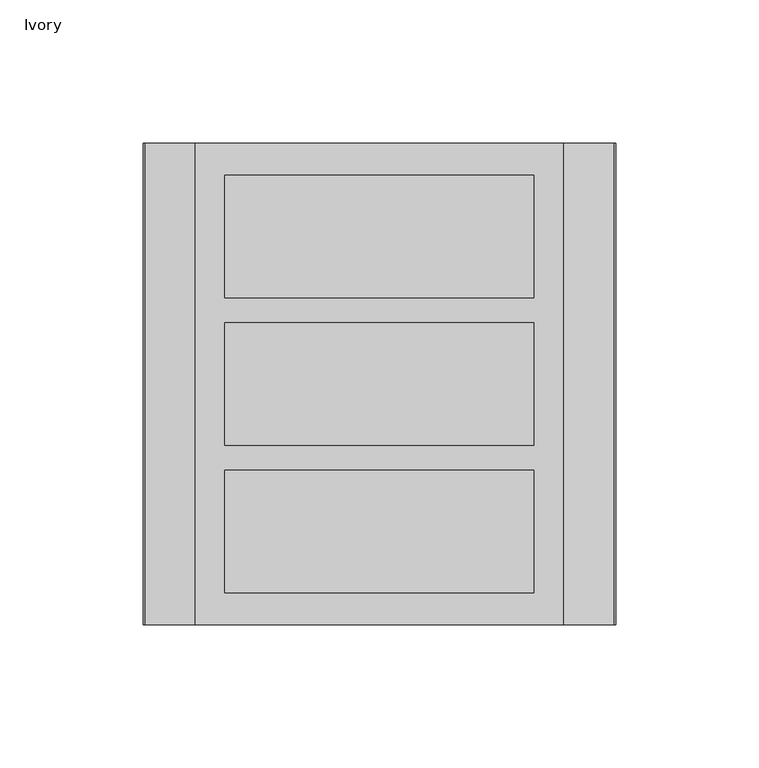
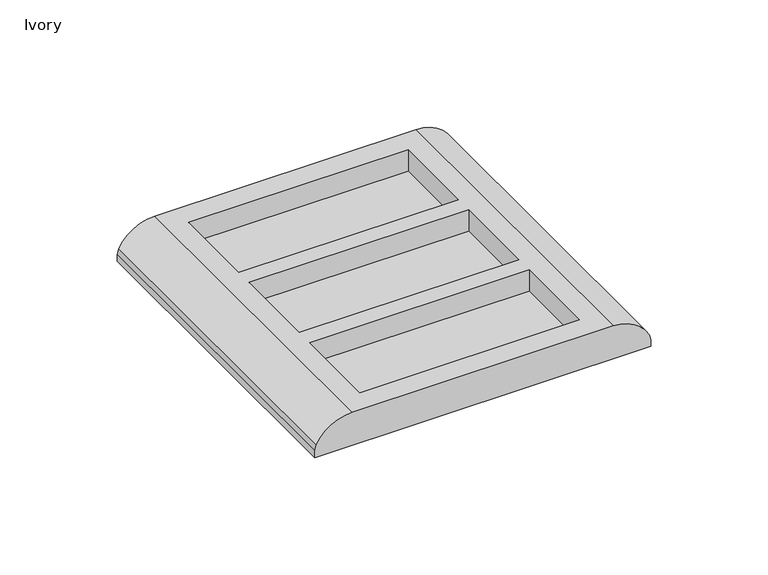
"""IFC4 building model written with IfcOpenShell, lengths in millimetres: proxy geometry, Device_Bracket-5500_Series-Wiremold-In_Line : Ivory."""

import ifcopenshell
import ifcopenshell.guid

model = None  # the IFC model being written
_history = None  # IfcOwnerHistory: only IFC2X3 demands one
_inside = {}  # id of a spatial element -> (the spatial element, [elements in it])
_under = {}  # id of a project, library or spatial element -> (it, [spatial elements below it])
_declared = {}  # id of a project -> (the project, [libraries it declares])
_typed = {}  # id of a type object -> (the type object, [elements of that type])
_made_of = {}  # id of a material, layer set ... -> (it, [elements and type objects made of it])


def new_model(schema):
    """Start an empty IFC model of exactly this schema.

    Asked for "IFC4X3", IfcOpenShell would pick the latest addendum, in which some entities
    have other attributes; the version numbers below select the first issue.
    IFC2X3 requires an IfcOwnerHistory on every rooted entity: one is made here for all.
    """
    global model, _history
    if schema == "IFC4X3":
        model = ifcopenshell.file(schema_version=(4, 3, 0, 0))
    else:
        model = ifcopenshell.file(schema=schema)
    _inside.clear()
    _under.clear()
    _declared.clear()
    _typed.clear()
    _made_of.clear()
    _history = None
    if model.schema == "IFC2X3":
        org = make("IfcOrganization", Name="unknown")
        user = make(
            "IfcPersonAndOrganization",
            ThePerson=make("IfcPerson", FamilyName="unknown"),
            TheOrganization=org,
        )
        app = make(
            "IfcApplication",
            ApplicationDeveloper=org,
            Version="unknown",
            ApplicationFullName="unknown",
            ApplicationIdentifier="unknown",
        )
        _history = make(
            "IfcOwnerHistory",
            OwningUser=user,
            OwningApplication=app,
            ChangeAction="ADDED",
            CreationDate=0,
        )
    return model


def make(cls, **values):
    """One entity of the class cls with the attributes given. An attribute that is None is left unset."""
    return model.create_entity(
        cls, **{name: value for name, value in values.items() if value is not None}
    )


def rooted(cls, **values):
    """An entity with a GlobalId (a new one), such as an element, a storey or a relation."""
    return make(cls, GlobalId=ifcopenshell.guid.new(), OwnerHistory=_history, **values)


def si_unit(unit_type, name, prefix=None):
    """IfcSIUnit, for example si_unit("LENGTHUNIT", "METRE", prefix="MILLI")."""
    return make("IfcSIUnit", UnitType=unit_type, Prefix=prefix, Name=name)


def assignment(units):
    """IfcUnitAssignment: the units of a project."""
    return None if units is None else make("IfcUnitAssignment", Units=units)


def point(xyz):
    """IfcCartesianPoint."""
    return None if xyz is None else make("IfcCartesianPoint", Coordinates=xyz)


def direction(xyz):
    """IfcDirection."""
    return None if xyz is None else make("IfcDirection", DirectionRatios=xyz)


def frame(location, z_axis=None, x_axis=None):
    """IfcAxis2Placement3D, a coordinate frame: its origin and axes. An axis left out is left unset."""
    return make(
        "IfcAxis2Placement3D",
        Location=point(location),
        Axis=direction(z_axis),
        RefDirection=direction(x_axis),
    )


def origin():
    """The frame at (0, 0, 0) with its axes left unset."""
    return frame((0.0, 0.0, 0.0))


def place(relative_to, where):
    """IfcLocalPlacement: puts the frame where relative to a parent placement (None: the world)."""
    return make(
        "IfcLocalPlacement", PlacementRelTo=relative_to, RelativePlacement=where
    )


def context(
    kind, dimensions, precision=None, world=None, true_north=None, identifier=None
):
    """IfcGeometricRepresentationContext, for example the 3D "Model" context."""
    return make(
        "IfcGeometricRepresentationContext",
        ContextIdentifier=identifier,
        ContextType=kind,
        CoordinateSpaceDimension=dimensions,
        Precision=precision,
        WorldCoordinateSystem=world,
        TrueNorth=true_north,
    )


def project(units=None, contexts=None):
    """IfcProject with its units and contexts."""
    return rooted(
        "IfcProject",
        Name="project",
        RepresentationContexts=contexts,
        UnitsInContext=assignment(units),
    )


def spatial(cls, under=None, at=None, **own):
    """A site, building, storey or space (cls), placed at a placement, below another one or the project."""
    s = rooted(cls, ObjectPlacement=at, **own)
    if under is not None:
        _under.setdefault(under.id(), (under, []))[1].append(s)
    return s


def circle_curve(where, radius):
    """IfcCircle in the frame where."""
    return make("IfcCircle", Position=where, Radius=radius)


def shape(context_of_items, identifier, shape_type, items):
    """IfcShapeRepresentation: the items that make up one representation, for example the "Body"."""
    return make(
        "IfcShapeRepresentation",
        ContextOfItems=context_of_items,
        RepresentationIdentifier=identifier,
        RepresentationType=shape_type,
        Items=items,
    )


def source(mapping_origin, context_of_items, identifier, shape_type, items):
    """IfcRepresentationMap: a shape defined once, which mapped items show again and again."""
    return make(
        "IfcRepresentationMap",
        MappingOrigin=mapping_origin,
        MappedRepresentation=shape(context_of_items, identifier, shape_type, items),
    )


def transform(
    local_origin,
    x_axis=None,
    y_axis=None,
    z_axis=None,
    scale=None,
    scale2=None,
    scale3=None,
    uniform=True,
):
    """IfcCartesianTransformationOperator3D, or its non-uniform kind. x_axis, y_axis, z_axis: its Axis1, 2, 3."""
    if uniform:
        return make(
            "IfcCartesianTransformationOperator3D",
            Axis1=direction(x_axis),
            Axis2=direction(y_axis),
            LocalOrigin=point(local_origin),
            Scale=scale,
            Axis3=direction(z_axis),
        )
    return make(
        "IfcCartesianTransformationOperator3DnonUniform",
        Axis1=direction(x_axis),
        Axis2=direction(y_axis),
        LocalOrigin=point(local_origin),
        Scale=scale,
        Axis3=direction(z_axis),
        Scale2=scale2,
        Scale3=scale3,
    )


def mapped(mapping_source, mapping_target):
    """IfcMappedItem: shows the shape of a source again, moved by a transform."""
    return make(
        "IfcMappedItem", MappingSource=mapping_source, MappingTarget=mapping_target
    )


def made_of(thing, what):
    """Note that an element or type object is made of a material, layer set ...; save() writes the relation."""
    if what is not None:
        _made_of.setdefault(what.id(), (what, []))[1].append(thing)
    return thing


def element(
    cls,
    number,
    at=None,
    inside=None,
    cuts=None,
    type_object=None,
    material=None,
    context=None,
    identifier="Body",
    shape_type=None,
    held_by="IfcProductDefinitionShape",
    body=None,
    shapes=None,
    **own,
):
    """One element of the class cls, such as IfcWall. Its Tag is "e" and its number.

    at: its placement. inside: the storey or other place that contains it. cuts: it is an
    opening in that element (IfcRelVoidsElement). A single representation is given by context,
    identifier, shape_type and body (its items); several are given by shapes. held_by: the class
    of the entity that holds the representations. save() writes the other relations.
    """
    e = rooted(cls, Tag="e%d" % number, ObjectPlacement=at, **own)
    if body is not None:
        shapes = [shape(context, identifier, shape_type, body)]
    if shapes is not None:
        e.Representation = make(held_by, Representations=shapes)
    if inside is not None:
        _inside.setdefault(inside.id(), (inside, []))[1].append(e)
    if cuts is not None:
        rooted(
            "IfcRelVoidsElement", RelatingBuildingElement=cuts, RelatedOpeningElement=e
        )
    if type_object is not None:
        _typed.setdefault(type_object.id(), (type_object, []))[1].append(e)
    return made_of(e, material)


def aggregate(whole, parts):
    """IfcRelAggregates: a whole, such as a stair, and the parts it consists of."""
    return rooted("IfcRelAggregates", RelatingObject=whole, RelatedObjects=parts)


def save(model, path):
    """Write the relations noted so far, then the file.

    IfcRelAggregates (storeys below a building ...), IfcRelContainedInSpatialStructure (elements
    in a storey), IfcRelDefinesByType, IfcRelAssociatesMaterial and IfcRelDeclares: one each for
    every whole, place, type object, material and project.
    """
    for whole, parts in _under.values():
        aggregate(whole, parts)
    for where, things in _inside.values():
        rooted(
            "IfcRelContainedInSpatialStructure",
            RelatedElements=things,
            RelatingStructure=where,
        )
    for kind, things in _typed.values():
        rooted("IfcRelDefinesByType", RelatedObjects=things, RelatingType=kind)
    for what, things in _made_of.values():
        rooted("IfcRelAssociatesMaterial", RelatedObjects=things, RelatingMaterial=what)
    for by, libraries in _declared.values():
        rooted("IfcRelDeclares", RelatingContext=by, RelatedDefinitions=libraries)
    model.write(path)


def plane_surface(at):
    """IfcPlane: the flat surface through the origin of the frame at, square to its z axis."""
    return make("IfcPlane", Position=at)


def cylinder_surface(at, radius):
    """IfcCylindricalSurface: all points at the distance radius from the z axis of the frame at."""
    return make("IfcCylindricalSurface", Position=at, Radius=radius)


def advanced_brep(points, edges, surfaces, faces):
    """IfcAdvancedBrep: a solid bounded by faces that lie on surfaces and meet in shared edges.

    An edge is (start, end): straight between two places in points (the first is 0);
    or (start, end, curve); or (start, end, curve, False) where it runs against its curve.
    A face is (place in surfaces, loops), or (place, loops, False) where it looks against
    its surface's normal. A loop lists edges by number (the first is 1), with a minus sign
    where the edge is run from its end to its start. The first loop is the outer one.
    """
    corners = [point(p) for p in points]
    vertices = [make("IfcVertexPoint", VertexGeometry=c) for c in corners]
    made = []
    for start, end, *more in edges:
        made.append(
            make(
                "IfcEdgeCurve",
                EdgeStart=vertices[start],
                EdgeEnd=vertices[end],
                EdgeGeometry=more[0] if more else make("IfcPolyline", Points=[corners[start], corners[end]]),
                SameSense=more[1] if len(more) > 1 else True,
            )
        )
    hull = []
    for where, loops, *sense in faces:
        bounds = []
        for j, loop in enumerate(loops):
            ring = [make("IfcOrientedEdge", EdgeElement=made[abs(k) - 1], Orientation=k > 0) for k in loop]
            bounds.append(
                make(
                    "IfcFaceOuterBound" if j == 0 else "IfcFaceBound",
                    Bound=make("IfcEdgeLoop", EdgeList=ring),
                    Orientation=True,
                )
            )
        hull.append(make("IfcAdvancedFace", Bounds=bounds, FaceSurface=surfaces[where], SameSense=sense[0] if sense else True))
    return make("IfcAdvancedBrep", Outer=make("IfcClosedShell", CfsFaces=hull))


def ivory_aa0b979c(model_context):
    return source(origin(), model_context, "Body", "AdvancedBrep", [
        advanced_brep(
        [(53.975, 72.99325, 5.8928), (-53.975, 72.99325, 5.8928), (-53.975, 30.13075, 5.8928), (53.975, 30.13075, 5.8928), (53.975, 21.43125, 5.8928), (-53.975, 21.43125, 5.8928), (-53.975, -21.43125, 5.8928), (53.975, -21.43125, 5.8928), (53.975, -30.13075, 5.8928), (-53.975, -30.13075, 5.8928), (-53.975, -72.99325, 5.8928), (53.975, -72.99325, 5.8928), (53.975, 72.99325, 17.018), (-53.975, 72.99325, 17.018), (-53.975, 30.13075, 17.018), (53.975, 30.13075, 17.018), (53.975, 21.43125, 17.018), (-53.975, 21.43125, 17.018), (-53.975, -21.43125, 17.018), (53.975, -21.43125, 17.018), (53.975, -30.13075, 17.018), (-53.975, -30.13075, 17.018), (-53.975, -72.99325, 17.018), (53.975, -72.99325, 17.018), (64.262, -84.1375, 17.018), (-64.262, -84.1375, 17.018), (-81.8311321, -84.1375, 6.36247), (-82.55, -84.1375, 3.4277039), (-82.55, -84.1375, 0.0), (82.55, -84.1375, 0.0), (82.55, -84.1375, 3.4277039), (81.8311321, -84.1375, 6.36247), (64.262, 84.1375, 17.018), (81.8311321, 84.1375, 6.36247), (82.55, 84.1375, 3.4277039), (82.55, 84.1375, 0.0), (-82.55, 84.1375, 0.0), (-82.55, 84.1375, 3.4277039), (-81.8311321, 84.1375, 6.36247), (-64.262, 84.1375, 17.018)],
        [
            (0, 1),
            (1, 2),
            (2, 3),
            (3, 0),
            (4, 5),
            (5, 6),
            (6, 7),
            (7, 4),
            (8, 9),
            (9, 10),
            (10, 11),
            (11, 8),
            (0, 12),
            (12, 13),
            (13, 1),
            (13, 14),
            (14, 2),
            (14, 15),
            (15, 3),
            (15, 12),
            (4, 16),
            (16, 17),
            (17, 5),
            (17, 18),
            (18, 6),
            (18, 19),
            (19, 7),
            (19, 16),
            (8, 20),
            (20, 21),
            (21, 9),
            (21, 22),
            (22, 10),
            (22, 23),
            (23, 11),
            (23, 20),
            (24, 25),
            (25, 26, circle_curve(frame((-64.262, -84.1375, -2.794), z_axis=(0.0, -1.0, 0.0), x_axis=(1.0, 0.0, 0.0)), 19.812)),
            (26, 27, circle_curve(frame((-76.2, -84.1375, 3.4277039), z_axis=(0.0, -1.0, 0.0), x_axis=(1.0, 0.0, 0.0)), 6.35)),
            (27, 28),
            (28, 29),
            (29, 30),
            (30, 31, circle_curve(frame((76.2, -84.1375, 3.4277039), z_axis=(0.0, -1.0, 0.0), x_axis=(1.0, 0.0, 0.0)), 6.35)),
            (31, 24, circle_curve(frame((64.262, -84.1375, -2.794), z_axis=(0.0, -1.0, 0.0), x_axis=(1.0, 0.0, 0.0)), 19.812)),
            (32, 33, circle_curve(frame((64.262, 84.1375, -2.794), z_axis=(0.0, 1.0, 0.0), x_axis=(1.0, 0.0, 0.0)), 19.812)),
            (33, 34, circle_curve(frame((76.2, 84.1375, 3.4277039), z_axis=(0.0, 1.0, 0.0), x_axis=(1.0, 0.0, 0.0)), 6.35)),
            (34, 35),
            (35, 36),
            (36, 37),
            (37, 38, circle_curve(frame((-76.2, 84.1375, 3.4277039), z_axis=(0.0, 1.0, 0.0), x_axis=(1.0, 0.0, 0.0)), 6.35)),
            (38, 39, circle_curve(frame((-64.262, 84.1375, -2.794), z_axis=(0.0, 1.0, 0.0), x_axis=(1.0, 0.0, 0.0)), 19.812)),
            (39, 32),
            (24, 32),
            (39, 25),
            (38, 26),
            (27, 37),
            (36, 28),
            (35, 29),
            (34, 30),
            (31, 33),
        ],
        [
            plane_surface(frame((-53.975, 72.99325, 5.8928), z_axis=(0.0, 0.0, 1.0), x_axis=(1.0, 0.0, 0.0))),
            plane_surface(frame((53.975, 72.99325, 17.018), z_axis=(0.0, -1.0, 0.0), x_axis=(0.0, 0.0, -1.0))),
            plane_surface(frame((-53.975, 72.99325, 17.018), z_axis=(1.0, 0.0, 0.0), x_axis=(0.0, 0.0, -1.0))),
            plane_surface(frame((-53.975, 30.13075, 17.018), z_axis=(0.0, 1.0, 0.0), x_axis=(0.0, 0.0, -1.0))),
            plane_surface(frame((53.975, 30.13075, 17.018), z_axis=(-1.0, 0.0, 0.0), x_axis=(0.0, 0.0, -1.0))),
            plane_surface(frame((53.975, 21.43125, 17.018), z_axis=(0.0, -1.0, 0.0), x_axis=(0.0, 0.0, -1.0))),
            plane_surface(frame((-53.975, 21.43125, 17.018), z_axis=(1.0, 0.0, 0.0), x_axis=(0.0, 0.0, -1.0))),
            plane_surface(frame((-53.975, -21.43125, 17.018), z_axis=(0.0, 1.0, 0.0), x_axis=(0.0, 0.0, -1.0))),
            plane_surface(frame((53.975, -21.43125, 17.018), z_axis=(-1.0, 0.0, 0.0), x_axis=(0.0, 0.0, -1.0))),
            plane_surface(frame((53.975, -30.13075, 17.018), z_axis=(0.0, -1.0, 0.0), x_axis=(0.0, 0.0, -1.0))),
            plane_surface(frame((-53.975, -30.13075, 17.018), z_axis=(1.0, 0.0, 0.0), x_axis=(0.0, 0.0, -1.0))),
            plane_surface(frame((-53.975, -72.99325, 17.018), z_axis=(0.0, 1.0, 0.0), x_axis=(0.0, 0.0, -1.0))),
            plane_surface(frame((53.975, -72.99325, 17.018), z_axis=(-1.0, 0.0, 0.0), x_axis=(0.0, 0.0, -1.0))),
            plane_surface(frame((-64.262, -84.1375, 17.018), z_axis=(0.0, -1.0, 0.0), x_axis=(-1.0, 0.0, 1.5143518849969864e-12))),
            plane_surface(frame((-64.262, 84.1375, 17.018), z_axis=(0.0, 1.0, 0.0), x_axis=(1.0, 0.0, -1.5143518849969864e-12))),
            plane_surface(frame((64.262, -84.1375, 17.018), z_axis=(1.5143518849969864e-12, 0.0, 1.0), x_axis=(0.0, 1.0, 0.0))),
            cylinder_surface(frame((-64.262, 84.1375, -2.794), z_axis=(0.0, -1.0, 0.0), x_axis=(1.0, 0.0, 0.0)), 19.812),
            plane_surface(frame((-82.55, -84.1375, 3.4277039), z_axis=(-1.0, 0.0, 0.0), x_axis=(0.0, 1.0, 0.0))),
            plane_surface(frame((-82.55, -84.1375, 0.0), z_axis=(0.0, 0.0, -1.0), x_axis=(0.0, 1.0, 0.0))),
            plane_surface(frame((82.55, -84.1375, 0.0), z_axis=(1.0, 0.0, -2.1669875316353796e-12), x_axis=(0.0, 1.0, 0.0))),
            cylinder_surface(frame((64.262, 84.1375, -2.794), z_axis=(0.0, -1.0, 0.0), x_axis=(1.0, 0.0, 0.0)), 19.812),
            cylinder_surface(frame((-76.2, 84.1375, 3.4277039), z_axis=(0.0, -1.0, 0.0), x_axis=(1.0, 0.0, 0.0)), 6.35),
            cylinder_surface(frame((76.2, 84.1375, 3.4277039), z_axis=(0.0, -1.0, 0.0), x_axis=(1.0, 0.0, 0.0)), 6.35),
        ],
        [
            (0, [[1, 2, 3, 4]]),
            (0, [[5, 6, 7, 8]]),
            (0, [[9, 10, 11, 12]]),
            (1, [[-1, 13, 14, 15]]),
            (2, [[-2, -15, 16, 17]]),
            (3, [[-3, -17, 18, 19]]),
            (4, [[-4, -19, 20, -13]]),
            (5, [[-5, 21, 22, 23]]),
            (6, [[-6, -23, 24, 25]]),
            (7, [[-7, -25, 26, 27]]),
            (8, [[-8, -27, 28, -21]]),
            (9, [[-9, 29, 30, 31]]),
            (10, [[-10, -31, 32, 33]]),
            (11, [[-11, -33, 34, 35]]),
            (12, [[-12, -35, 36, -29]]),
            (13, [[37, 38, 39, 40, 41, 42, 43, 44]]),
            (14, [[45, 46, 47, 48, 49, 50, 51, 52]]),
            (15, [[-37, 53, -52, 54], [-14, -20, -18, -16], [-22, -28, -26, -24], [-30, -36, -34, -32]]),
            (16, [[-38, -54, -51, 55]]),
            (17, [[-40, 56, -49, 57]]),
            (18, [[-41, -57, -48, 58]]),
            (19, [[-42, -58, -47, 59]]),
            (20, [[-44, 60, -45, -53]]),
            (21, [[-39, -55, -50, -56]]),
            (22, [[-43, -59, -46, -60]]),
        ],
    ),
    ])


if __name__ == "__main__":
    model = new_model("IFC4")
    model_context = context("Model", 3, world=origin())
    ifc_project = project(units=[si_unit("LENGTHUNIT", "METRE", prefix="MILLI")], contexts=[model_context])
    site = spatial("IfcSite", under=ifc_project)
    building = spatial("IfcBuilding", under=site)
    placement = place(None, origin())
    ivory_shape = ivory_aa0b979c(model_context)
    element("IfcBuildingElementProxy", 1, Name="Device_Bracket-5500_Series-Wiremold-In_Line : Ivory", ObjectType="Device_Bracket-5500_Series-Wiremold-In_Line : Ivory", at=placement, inside=building, context=model_context, shape_type="MappedRepresentation", body=[
        mapped(ivory_shape, transform((0.0, 0.0, 0.0), x_axis=(1.0, 0.0, 0.0), y_axis=(0.0, 1.0, 0.0), z_axis=(0.0, 0.0, 1.0))),
    ])
    save(model, "model.ifc")
